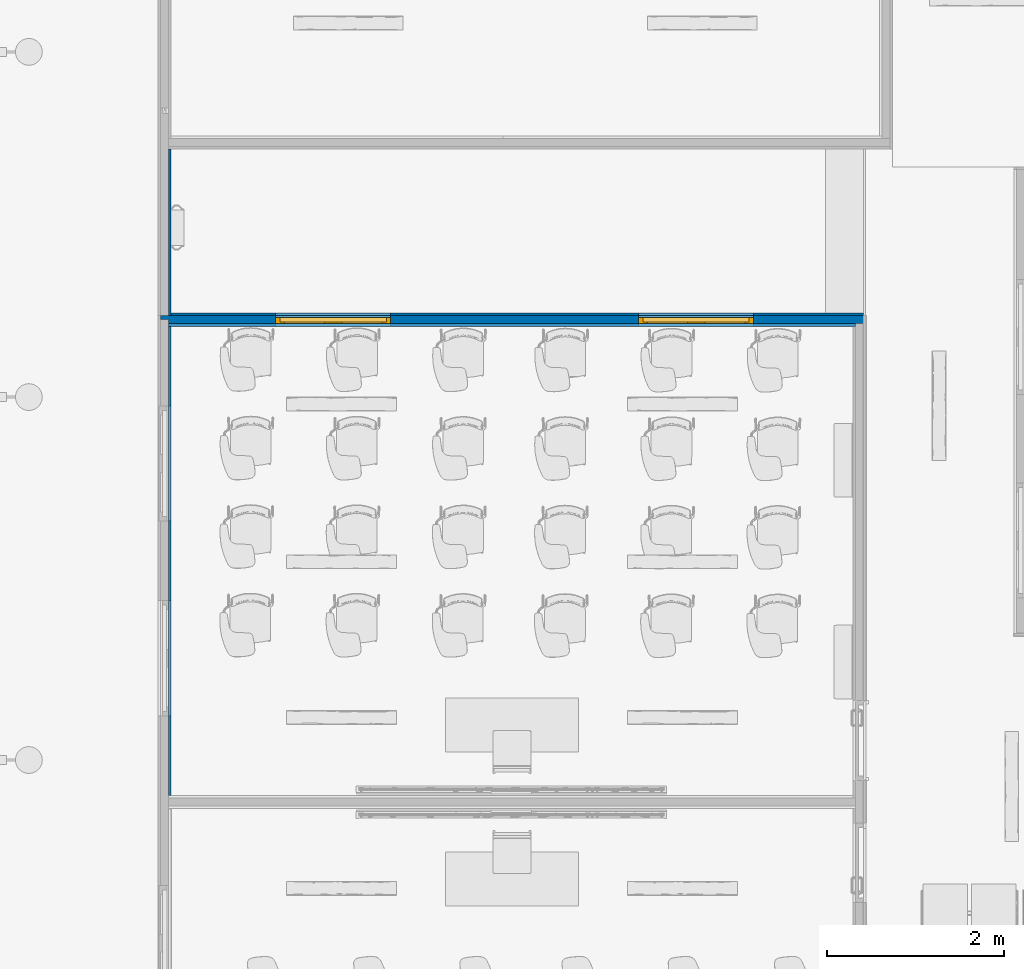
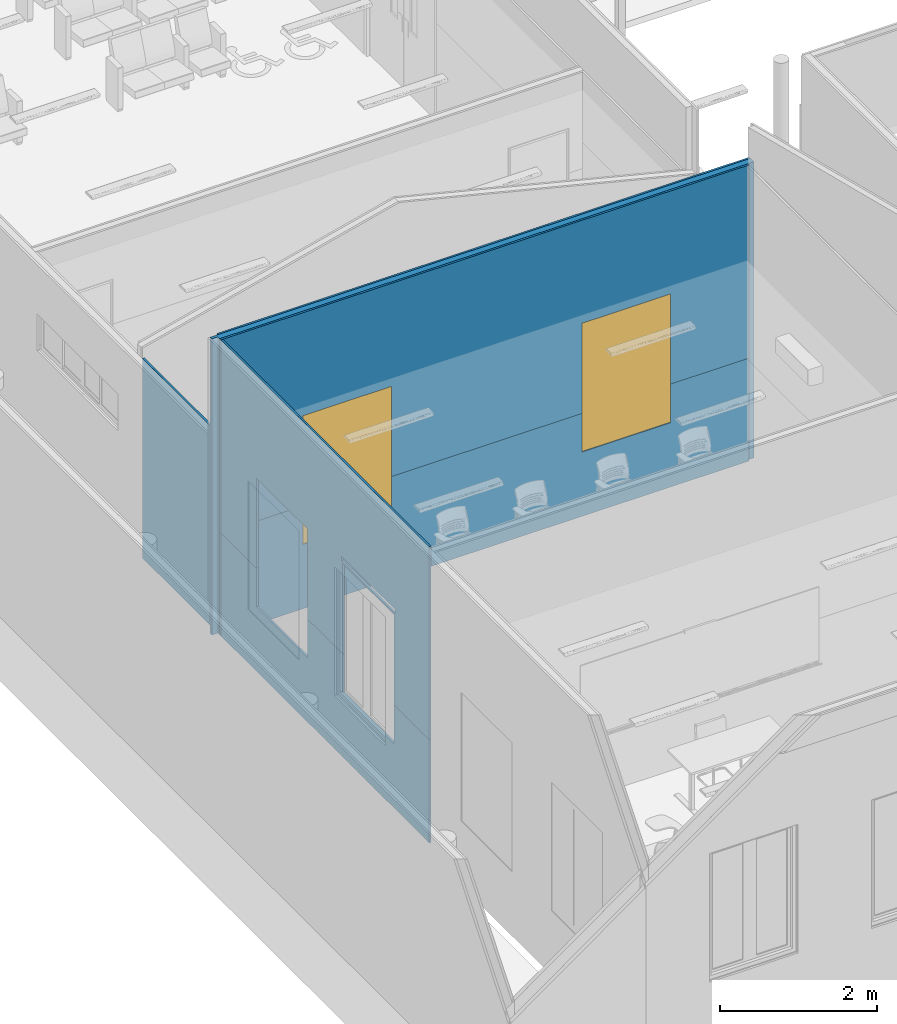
# One storey, part 13 of 155: 7 walls, 2 windows, 32 openings.
"""IFC2X3 building model written with IfcOpenShell, lengths in metres."""

import ifcopenshell
import ifcopenshell.guid

model = None  # the IFC model being written
_history = None  # IfcOwnerHistory: only IFC2X3 demands one
_inside = {}  # id of a spatial element -> (the spatial element, [elements in it])
_under = {}  # id of a project, library or spatial element -> (it, [spatial elements below it])
_declared = {}  # id of a project -> (the project, [libraries it declares])
_typed = {}  # id of a type object -> (the type object, [elements of that type])
_made_of = {}  # id of a material, layer set ... -> (it, [elements and type objects made of it])


def new_model(schema):
    """Start an empty IFC model of exactly this schema.

    Asked for "IFC4X3", IfcOpenShell would pick the latest addendum, in which some entities
    have other attributes; the version numbers below select the first issue.
    IFC2X3 requires an IfcOwnerHistory on every rooted entity: one is made here for all.
    """
    global model, _history
    if schema == "IFC4X3":
        model = ifcopenshell.file(schema_version=(4, 3, 0, 0))
    else:
        model = ifcopenshell.file(schema=schema)
    _inside.clear()
    _under.clear()
    _declared.clear()
    _typed.clear()
    _made_of.clear()
    _history = None
    if model.schema == "IFC2X3":
        org = make("IfcOrganization", Name="unknown")
        user = make(
            "IfcPersonAndOrganization",
            ThePerson=make("IfcPerson", FamilyName="unknown"),
            TheOrganization=org,
        )
        app = make(
            "IfcApplication",
            ApplicationDeveloper=org,
            Version="unknown",
            ApplicationFullName="unknown",
            ApplicationIdentifier="unknown",
        )
        _history = make(
            "IfcOwnerHistory",
            OwningUser=user,
            OwningApplication=app,
            ChangeAction="ADDED",
            CreationDate=0,
        )
    return model


def make(cls, **values):
    """One entity of the class cls with the attributes given. An attribute that is None is left unset."""
    return model.create_entity(
        cls, **{name: value for name, value in values.items() if value is not None}
    )


def entity(cls, *values):
    """Any entity or typed value of the class cls, its attributes in the order of the schema. None: left unset."""
    e = model.create_entity(cls)
    for i, value in enumerate(values):
        if value is not None:
            e[i] = value
    return e


def rooted(cls, **values):
    """An entity with a GlobalId (a new one), such as an element, a storey or a relation."""
    return make(cls, GlobalId=ifcopenshell.guid.new(), OwnerHistory=_history, **values)


def si_unit(unit_type, name, prefix=None):
    """IfcSIUnit, for example si_unit("LENGTHUNIT", "METRE", prefix="MILLI")."""
    return make("IfcSIUnit", UnitType=unit_type, Prefix=prefix, Name=name)


def converted_unit(unit_type, name, factor, base, dimensions=None, offset=None):
    """IfcConversionBasedUnit, such as the inch: factor (a typed value) times the base unit."""
    return make(
        "IfcConversionBasedUnit"
        if offset is None
        else "IfcConversionBasedUnitWithOffset",
        ConversionOffset=offset,
        Dimensions=None
        if dimensions is None
        else entity("IfcDimensionalExponents", *dimensions),
        UnitType=unit_type,
        Name=name,
        ConversionFactor=make(
            "IfcMeasureWithUnit", ValueComponent=factor, UnitComponent=base
        ),
    )


def derived_unit(unit_type, elements):
    """IfcDerivedUnit: a product of units, each with its exponent."""
    return make(
        "IfcDerivedUnit",
        Elements=[
            make("IfcDerivedUnitElement", Unit=unit, Exponent=power)
            for unit, power in elements
        ],
        UnitType=unit_type,
    )


def assignment(units):
    """IfcUnitAssignment: the units of a project."""
    return None if units is None else make("IfcUnitAssignment", Units=units)


def point(xyz):
    """IfcCartesianPoint."""
    return None if xyz is None else make("IfcCartesianPoint", Coordinates=xyz)


def direction(xyz):
    """IfcDirection."""
    return None if xyz is None else make("IfcDirection", DirectionRatios=xyz)


def frame(location, z_axis=None, x_axis=None):
    """IfcAxis2Placement3D, a coordinate frame: its origin and axes. An axis left out is left unset."""
    return make(
        "IfcAxis2Placement3D",
        Location=point(location),
        Axis=direction(z_axis),
        RefDirection=direction(x_axis),
    )


def frame_2d(location, x_axis=None):
    """IfcAxis2Placement2D, a coordinate frame in the plane: its origin and x axis."""
    return make(
        "IfcAxis2Placement2D", Location=point(location), RefDirection=direction(x_axis)
    )


def origin():
    """The frame at (0, 0, 0) with its axes left unset."""
    return frame((0.0, 0.0, 0.0))


def origin_2d_with_axis():
    """The frame at (0, 0) in the plane with the x axis (1, 0) written out."""
    return frame_2d((0.0, 0.0), x_axis=(1.0, 0.0))


def place(relative_to, where):
    """IfcLocalPlacement: puts the frame where relative to a parent placement (None: the world)."""
    return make(
        "IfcLocalPlacement", PlacementRelTo=relative_to, RelativePlacement=where
    )


def context(
    kind, dimensions, precision=None, world=None, true_north=None, identifier=None
):
    """IfcGeometricRepresentationContext, for example the 3D "Model" context."""
    return make(
        "IfcGeometricRepresentationContext",
        ContextIdentifier=identifier,
        ContextType=kind,
        CoordinateSpaceDimension=dimensions,
        Precision=precision,
        WorldCoordinateSystem=world,
        TrueNorth=true_north,
    )


def subcontext(parent, identifier, kind, view, scale=None):
    """IfcGeometricRepresentationSubContext, for example "Body" below "Model"."""
    return make(
        "IfcGeometricRepresentationSubContext",
        ContextIdentifier=identifier,
        ContextType=kind,
        ParentContext=parent,
        TargetScale=scale,
        TargetView=view,
    )


def project(units=None, contexts=None):
    """IfcProject with its units and contexts."""
    return rooted(
        "IfcProject",
        Name="project",
        RepresentationContexts=contexts,
        UnitsInContext=assignment(units),
    )


def spatial(cls, under=None, at=None, **own):
    """A site, building, storey or space (cls), placed at a placement, below another one or the project."""
    s = rooted(cls, ObjectPlacement=at, **own)
    if under is not None:
        _under.setdefault(under.id(), (under, []))[1].append(s)
    return s


def polyline(points):
    """IfcPolyline through the points."""
    return make("IfcPolyline", Points=[point(p) for p in points])


def profile(cls, at=None, kind="AREA", **sizes):
    """A parametric profile (cls). Its sizes go by their IFC names, for example OverallWidth=200.0."""
    return make(cls, ProfileType=kind, Position=at, **sizes)


def rectangle(**sizes):
    """IfcRectangleProfileDef."""
    return profile("IfcRectangleProfileDef", **sizes)


def outline(outer, holes=None, kind="AREA"):
    """IfcArbitraryClosedProfileDef: a profile drawn as a closed curve; with holes, ...WithVoids."""
    if holes is None:
        return make("IfcArbitraryClosedProfileDef", ProfileType=kind, OuterCurve=outer)
    return make(
        "IfcArbitraryProfileDefWithVoids",
        ProfileType=kind,
        OuterCurve=outer,
        InnerCurves=holes,
    )


def extrude(swept, where, along, depth):
    """IfcExtrudedAreaSolid: the profile swept, set in the frame where, extruded along a direction by depth."""
    return make(
        "IfcExtrudedAreaSolid",
        SweptArea=swept,
        Position=where,
        ExtrudedDirection=direction(along),
        Depth=depth,
    )


def shape(context_of_items, identifier, shape_type, items):
    """IfcShapeRepresentation: the items that make up one representation, for example the "Body"."""
    return make(
        "IfcShapeRepresentation",
        ContextOfItems=context_of_items,
        RepresentationIdentifier=identifier,
        RepresentationType=shape_type,
        Items=items,
    )


def source(mapping_origin, context_of_items, identifier, shape_type, items):
    """IfcRepresentationMap: a shape defined once, which mapped items show again and again."""
    return make(
        "IfcRepresentationMap",
        MappingOrigin=mapping_origin,
        MappedRepresentation=shape(context_of_items, identifier, shape_type, items),
    )


def transform(
    local_origin,
    x_axis=None,
    y_axis=None,
    z_axis=None,
    scale=None,
    scale2=None,
    scale3=None,
    uniform=True,
):
    """IfcCartesianTransformationOperator3D, or its non-uniform kind. x_axis, y_axis, z_axis: its Axis1, 2, 3."""
    if uniform:
        return make(
            "IfcCartesianTransformationOperator3D",
            Axis1=direction(x_axis),
            Axis2=direction(y_axis),
            LocalOrigin=point(local_origin),
            Scale=scale,
            Axis3=direction(z_axis),
        )
    return make(
        "IfcCartesianTransformationOperator3DnonUniform",
        Axis1=direction(x_axis),
        Axis2=direction(y_axis),
        LocalOrigin=point(local_origin),
        Scale=scale,
        Axis3=direction(z_axis),
        Scale2=scale2,
        Scale3=scale3,
    )


def mapped(mapping_source, mapping_target):
    """IfcMappedItem: shows the shape of a source again, moved by a transform."""
    return make(
        "IfcMappedItem", MappingSource=mapping_source, MappingTarget=mapping_target
    )


def material(Name=None, Category=None):
    """IfcMaterial."""
    return make("IfcMaterial", Name=Name, Category=Category)


def layer(
    of_material, thickness, ventilated=None, Name=None, Category=None, Priority=None
):
    """IfcMaterialLayer: one layer of a wall or slab, of a material (None: an air gap)."""
    return make(
        "IfcMaterialLayer",
        Material=of_material,
        LayerThickness=thickness,
        IsVentilated=ventilated,
        Name=Name,
        Category=Category,
        Priority=Priority,
    )


def layer_set(layers, Name=None):
    """IfcMaterialLayerSet."""
    return make("IfcMaterialLayerSet", MaterialLayers=layers, LayerSetName=Name)


def layer_usage(for_layer_set, set_direction, sense, offset, extent=None):
    """IfcMaterialLayerSetUsage: how a layer set lies in its element."""
    return make(
        "IfcMaterialLayerSetUsage",
        ForLayerSet=for_layer_set,
        LayerSetDirection=set_direction,
        DirectionSense=sense,
        OffsetFromReferenceLine=offset,
        ReferenceExtent=extent,
    )


def made_of(thing, what):
    """Note that an element or type object is made of a material, layer set ...; save() writes the relation."""
    if what is not None:
        _made_of.setdefault(what.id(), (what, []))[1].append(thing)
    return thing


def type_object(cls, material=None, **own):
    """A type object (cls), such as IfcWallType, which elements share."""
    return made_of(rooted(cls, **own), material)


def type_shapes(of_type, sources):
    """Give a type object the sources (RepresentationMaps) that its elements show as mapped items."""
    of_type.RepresentationMaps = sources


def element(
    cls,
    number,
    at=None,
    inside=None,
    cuts=None,
    type_object=None,
    material=None,
    context=None,
    identifier="Body",
    shape_type=None,
    held_by="IfcProductDefinitionShape",
    body=None,
    shapes=None,
    **own,
):
    """One element of the class cls, such as IfcWall. Its Tag is "e" and its number.

    at: its placement. inside: the storey or other place that contains it. cuts: it is an
    opening in that element (IfcRelVoidsElement). A single representation is given by context,
    identifier, shape_type and body (its items); several are given by shapes. held_by: the class
    of the entity that holds the representations. save() writes the other relations.
    """
    e = rooted(cls, Tag="e%d" % number, ObjectPlacement=at, **own)
    if body is not None:
        shapes = [shape(context, identifier, shape_type, body)]
    if shapes is not None:
        e.Representation = make(held_by, Representations=shapes)
    if inside is not None:
        _inside.setdefault(inside.id(), (inside, []))[1].append(e)
    if cuts is not None:
        rooted(
            "IfcRelVoidsElement", RelatingBuildingElement=cuts, RelatedOpeningElement=e
        )
    if type_object is not None:
        _typed.setdefault(type_object.id(), (type_object, []))[1].append(e)
    return made_of(e, material)


def fill(opening, filler):
    """IfcRelFillsElement: the door or window that sits in an opening."""
    return rooted(
        "IfcRelFillsElement",
        RelatingOpeningElement=opening,
        RelatedBuildingElement=filler,
    )


def aggregate(whole, parts):
    """IfcRelAggregates: a whole, such as a stair, and the parts it consists of."""
    return rooted("IfcRelAggregates", RelatingObject=whole, RelatedObjects=parts)


def save(model, path):
    """Write the relations noted so far, then the file.

    IfcRelAggregates (storeys below a building ...), IfcRelContainedInSpatialStructure (elements
    in a storey), IfcRelDefinesByType, IfcRelAssociatesMaterial and IfcRelDeclares: one each for
    every whole, place, type object, material and project.
    """
    for whole, parts in _under.values():
        aggregate(whole, parts)
    for where, things in _inside.values():
        rooted(
            "IfcRelContainedInSpatialStructure",
            RelatedElements=things,
            RelatingStructure=where,
        )
    for kind, things in _typed.values():
        rooted("IfcRelDefinesByType", RelatedObjects=things, RelatingType=kind)
    for what, things in _made_of.values():
        rooted("IfcRelAssociatesMaterial", RelatedObjects=things, RelatingMaterial=what)
    for by, libraries in _declared.values():
        rooted("IfcRelDeclares", RelatingContext=by, RelatedDefinitions=libraries)
    model.write(path)


model = new_model("IFC2X3")

# Units and contexts
model_context = context("Model", 3, precision=1e-05, world=origin(), true_north=direction((6.12303176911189e-17, 1.0)))
body_context = subcontext(model_context, "Body", "Model", "MODEL_VIEW")
ifc_project = project(units=[si_unit("LENGTHUNIT", "METRE"), si_unit("AREAUNIT", "SQUARE_METRE"), si_unit("VOLUMEUNIT", "CUBIC_METRE"), converted_unit("PLANEANGLEUNIT", "DEGREE", entity("IfcRatioMeasure", 0.0174532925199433), si_unit("PLANEANGLEUNIT", "RADIAN"), dimensions=[0, 0, 0, 0, 0, 0, 0]), si_unit("MASSUNIT", "GRAM", prefix="KILO"), derived_unit("MASSDENSITYUNIT", [(si_unit("MASSUNIT", "GRAM", prefix="KILO"), 1), (si_unit("LENGTHUNIT", "METRE"), -3)]), si_unit("TIMEUNIT", "SECOND"), si_unit("FREQUENCYUNIT", "HERTZ"), si_unit("THERMODYNAMICTEMPERATUREUNIT", "DEGREE_CELSIUS"), derived_unit("THERMALTRANSMITTANCEUNIT", [(si_unit("MASSUNIT", "GRAM", prefix="KILO"), 1), (si_unit("THERMODYNAMICTEMPERATUREUNIT", "KELVIN"), -1), (si_unit("TIMEUNIT", "SECOND"), -3)]), derived_unit("VOLUMETRICFLOWRATEUNIT", [(si_unit("LENGTHUNIT", "METRE"), 3), (si_unit("TIMEUNIT", "SECOND"), -1)]), si_unit("ELECTRICCURRENTUNIT", "AMPERE"), si_unit("ELECTRICVOLTAGEUNIT", "VOLT"), si_unit("POWERUNIT", "WATT"), si_unit("FORCEUNIT", "NEWTON", prefix="KILO"), si_unit("ILLUMINANCEUNIT", "LUX"), si_unit("LUMINOUSFLUXUNIT", "LUMEN"), si_unit("LUMINOUSINTENSITYUNIT", "CANDELA"), derived_unit("USERDEFINED", [(si_unit("MASSUNIT", "GRAM", prefix="KILO"), -1), (si_unit("LENGTHUNIT", "METRE"), -2), (si_unit("TIMEUNIT", "SECOND"), 3), (si_unit("LUMINOUSFLUXUNIT", "LUMEN"), 1)]), derived_unit("LINEARVELOCITYUNIT", [(si_unit("LENGTHUNIT", "METRE"), 1), (si_unit("TIMEUNIT", "SECOND"), -1)]), si_unit("PRESSUREUNIT", "PASCAL"), derived_unit("USERDEFINED", [(si_unit("LENGTHUNIT", "METRE"), -2), (si_unit("MASSUNIT", "GRAM", prefix="KILO"), 1), (si_unit("TIMEUNIT", "SECOND"), -2)])], contexts=[model_context])

# Site, building, storey
site_placement = place(None, frame((26.9889013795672, -17.5624287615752, 0.0)))
site = spatial("IfcSite", under=ifc_project, at=site_placement, Name="Default", CompositionType="ELEMENT")
building_placement = place(site_placement, origin())
building = spatial("IfcBuilding", under=site, at=building_placement, Name="C. C. L. Monsenhor Antônio Sampaio", CompositionType="ELEMENT")
storey_placement = place(building_placement, frame((0.0, 0.0, 1.19999999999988)))
storey = spatial("IfcBuildingStorey", under=building, at=storey_placement, Name="Nível 1.2", CompositionType="ELEMENT", Elevation=1.19999999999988)

# Wall, openings, windows
ifc_material_1 = material(Name="ALVENARIA")
ifc_layer_1 = layer(ifc_material_1, 0.09)
ifc_layer_set_1 = layer_set([ifc_layer_1], Name="Parede básica:ENucleo parede 15cm")
ifc_layer_usage_1 = layer_usage(ifc_layer_set_1, "AXIS2", "POSITIVE", -0.045)
wall_type_1 = type_object("IfcWallType", Name="Parede básica:ENucleo parede 15cm", PredefinedType="STANDARD", material=ifc_layer_set_1)
wall_1_placement = place(storey_placement, frame((-14.110552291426, -28.378066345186, 0.0)))
wall_1 = element("IfcWallStandardCase", 1, at=wall_1_placement, inside=storey, type_object=wall_type_1, material=ifc_layer_usage_1, Name="Parede básica:ENucleo parede 15cm", ObjectType="Parede básica:ENucleo parede 15cm", context=body_context, shape_type="SweptSolid", body=[
    extrude(outline(polyline([(7.93999999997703, -0.0450000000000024), (7.93999999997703, 0.0449999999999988), (0.119999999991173, 0.0449999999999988), (0.0899999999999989, 0.0449999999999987), (0.0, 0.0449999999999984), (0.0, 0.0), (0.0900000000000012, 0.0), (0.0900000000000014, -0.0450000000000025), (0.119999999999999, -0.0450000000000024), (7.84999999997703, -0.0450000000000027), (7.93999999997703, -0.0450000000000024)])), origin(), (0.0, 0.0, 1.0), 4.60000000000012),
])
opening_1_placement = place(wall_1_placement, frame((2.59999999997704, 0.0449999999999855, 1.0)))
opening_1 = element("IfcOpeningElement", 2, at=opening_1_placement, cuts=wall_1, Name="Janela levantamento:130 x 200cm 2:1", ObjectType="Opening", context=body_context, shape_type="SweptSolid", body=[
    extrude(rectangle(XDim=2.0, YDim=1.30000000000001, at=frame_2d((0.999999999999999, 0.650000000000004), x_axis=(1.0, 0.0))), frame((0.0, 0.0, 0.0), z_axis=(0.0, -1.0, 0.0), x_axis=(0.0, 0.0, 1.0)), (0.0, 0.0, 1.0), 0.09),
])
opening_2_placement = place(wall_1_placement, frame((6.69999999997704, 0.0449999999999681, 1.0)))
opening_2 = element("IfcOpeningElement", 3, at=opening_2_placement, cuts=wall_1, Name="Janela levantamento:130 x 200cm 2:1", ObjectType="Opening", context=body_context, shape_type="SweptSolid", body=[
    extrude(rectangle(XDim=2.0, YDim=1.30000000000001, at=frame_2d((0.999999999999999, 0.650000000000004), x_axis=(1.0, 0.0))), frame((0.0, 0.0, 0.0), z_axis=(0.0, -1.0, 0.0), x_axis=(0.0, 0.0, 1.0)), (0.0, 0.0, 1.0), 0.09),
])
ifc_material_2 = material(Name="Pintura Azul")
window_style = type_object("IfcWindowStyle", Name="130 x 200cm 2", ConstructionType="NOTDEFINED", OperationType="NOTDEFINED", ParameterTakesPrecedence=False, Sizeable=False, material=ifc_material_2)
shared_shape = source(origin(), body_context, "Body", "SweptSolid", [
    extrude(rectangle(XDim=1.3, YDim=0.0209999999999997, at=frame_2d((0.0, 4.33680868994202e-18), x_axis=(1.0, 0.0))), frame((0.650000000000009, 0.0795000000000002, 0.0)), (0.0, 0.0, 1.0), 0.0299999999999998),
    extrude(outline(polyline([(-0.325000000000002, -1.0), (0.325000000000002, -1.0), (0.325000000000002, 1.0), (-0.325000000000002, 1.0), (-0.325000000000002, -1.0)]), holes=[polyline([(0.225000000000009, -0.899999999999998), (-0.225000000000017, -0.899999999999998), (-0.225000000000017, 0.900000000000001), (0.225000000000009, 0.900000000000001), (0.225000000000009, -0.899999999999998)])]), frame((0.325000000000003, 0.0690000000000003, 1.0), z_axis=(0.0, 1.0, 0.0), x_axis=(1.0, 0.0, 0.0)), (0.0, 0.0, 1.0), 0.04),
    extrude(outline(polyline([(-0.650000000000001, -1.0), (0.650000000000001, -1.0), (0.650000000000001, 1.0), (-0.650000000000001, 1.0), (-0.650000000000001, -1.0)]), holes=[polyline([(-0.599999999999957, -0.949999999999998), (-0.599999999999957, 0.94), (0.600000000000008, 0.94), (0.600000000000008, -0.949999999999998), (-0.599999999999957, -0.949999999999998)])]), frame((0.650000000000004, 0.019, 1.0), z_axis=(0.0, 1.0, 0.0), x_axis=(1.0, 0.0, 0.0)), (0.0, 0.0, 1.0), 0.05),
    extrude(rectangle(XDim=0.0205880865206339, YDim=0.450000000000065, at=origin_2d_with_axis()), frame((0.324999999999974, 0.0987059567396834, 0.0999999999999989), z_axis=(0.0, 0.0, 1.0), x_axis=(0.0, 1.0, 0.0)), (0.0, 0.0, 1.0), 1.8),
    extrude(rectangle(XDim=0.0205880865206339, YDim=0.449999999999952, at=frame_2d((0.0, 4.16333634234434e-17), x_axis=(1.0, 0.0))), frame((0.977826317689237, 0.0987059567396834, 0.100000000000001), z_axis=(0.0, 0.0, 1.0), x_axis=(0.0, 1.0, 0.0)), (0.0, 0.0, 1.0), 1.8),
    extrude(outline(polyline([(-1.0, -0.325000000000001), (1.0, -0.325000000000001), (1.0, 0.325000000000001), (-1.0, 0.325000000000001), (-1.0, -0.325000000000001)]), holes=[polyline([(-0.899999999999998, 0.224999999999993), (0.900000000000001, 0.224999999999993), (0.900000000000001, -0.225000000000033), (-0.899999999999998, -0.225000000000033), (-0.899999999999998, 0.224999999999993)])]), frame((0.975000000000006, 0.0690000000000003, 1.0), z_axis=(0.0, 1.0, 0.0), x_axis=(0.0, 0.0, -1.0)), (0.0, 0.0, 1.0), 0.04),
])
type_shapes(window_style, [shared_shape])
window_1_placement = place(opening_2_placement, frame((0.0, 0.0, 0.0), z_axis=(0.0, 0.0, 1.0), x_axis=(-1.0, 0.0, 0.0)))
window_1 = element("IfcWindow", 4, at=window_1_placement, inside=storey, type_object=window_style, material=ifc_material_2, Name="Janela levantamento:130 x 200cm 2", ObjectType="130 x 200cm 2", OverallHeight=2.0, OverallWidth=1.30000000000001, context=body_context, shape_type="MappedRepresentation", body=[
    mapped(shared_shape, transform((0.0, 0.0, 0.0), scale=1.0)),
])
fill(opening_2, window_1)
window_2_placement = place(opening_1_placement, frame((0.0, 0.0, 0.0), z_axis=(0.0, 0.0, 1.0), x_axis=(-1.0, 0.0, 0.0)))
window_2 = element("IfcWindow", 5, at=window_2_placement, inside=storey, type_object=window_style, material=ifc_material_2, Name="Janela levantamento:130 x 200cm 2", ObjectType="130 x 200cm 2", OverallHeight=2.0, OverallWidth=1.30000000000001, context=body_context, shape_type="MappedRepresentation", body=[
    mapped(shared_shape, transform((0.0, 0.0, 0.0), scale=1.0)),
])
fill(opening_1, window_2)

# Wall, openings
ifc_material_3 = material(Name=".CERÂMICA 10x10 BRANCA")
ifc_layer_2 = layer(ifc_material_3, 0.0035)
ifc_material_4 = material(Name="Argamassa Colante")
ifc_layer_3 = layer(ifc_material_4, 0.02)
ifc_material_5 = material(Name="4")
ifc_layer_4 = layer(ifc_material_5, 0.0015)
ifc_material_6 = material(Name="3")
ifc_layer_5 = layer(ifc_material_6, 0.005)
ifc_layer_set_2 = layer_set([ifc_layer_2, ifc_layer_3, ifc_layer_4, ifc_layer_5], Name="Parede básica:ECeramica branca 10x10cm")
ifc_layer_usage_2 = layer_usage(ifc_layer_set_2, "AXIS2", "POSITIVE", -0.015)
wall_type_2 = type_object("IfcWallType", Name="Parede básica:ECeramica branca 10x10cm", PredefinedType="STANDARD", material=ifc_layer_set_2)
wall_2_placement = place(storey_placement, frame((-14.020552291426, -28.438066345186, 0.0)))
wall_2 = element("IfcWallStandardCase", 6, at=wall_2_placement, inside=storey, type_object=wall_type_2, material=ifc_layer_usage_2, Name="Parede básica:ECeramica branca 10x10cm", ObjectType="Parede básica:ECeramica branca 10x10cm", context=body_context, shape_type="SweptSolid", body=[
    extrude(rectangle(XDim=7.75999999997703, YDim=0.0300000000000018, at=frame_2d((3.87999999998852, 0.0), x_axis=(-1.0, 0.0))), origin(), (0.0, 0.0, 1.0), 1.6),
])
opening_3_placement = place(wall_2_placement, origin())
element("IfcOpeningElement", 7, at=opening_3_placement, cuts=wall_2, Name="Parede básica:ECeramica branca 10x10cm", ObjectType="Opening", context=body_context, shape_type="SweptSolid", body=[
    extrude(rectangle(XDim=2.0, YDim=1.30000000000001, at=frame_2d((0.0, -3.88578058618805e-16), x_axis=(0.0, 1.0))), frame((5.95999999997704, -1.419, 2.0), z_axis=(0.0, 1.0, 0.0), x_axis=(-1.0, 0.0, 0.0)), (0.0, 0.0, 1.0), 3.048),
])
opening_4_placement = place(wall_2_placement, origin())
element("IfcOpeningElement", 8, at=opening_4_placement, cuts=wall_2, Name="Parede básica:ECeramica branca 10x10cm", ObjectType="Opening", context=body_context, shape_type="SweptSolid", body=[
    extrude(rectangle(XDim=2.0, YDim=1.30000000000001, at=frame_2d((0.0, -3.88578058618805e-16), x_axis=(0.0, 1.0))), frame((1.85999999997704, -1.419, 2.0), z_axis=(0.0, 1.0, 0.0), x_axis=(-1.0, 0.0, 0.0)), (0.0, 0.0, 1.0), 3.048),
])

ifc_layer_usage_3 = layer_usage(ifc_layer_set_2, "AXIS2", "POSITIVE", -0.015)
wall_3_placement = place(storey_placement, frame((-14.0055522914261, -33.7530663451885, 0.0), z_axis=(0.0, 0.0, 1.0), x_axis=(0.0, 1.0, 0.0)))
wall_3 = element("IfcWallStandardCase", 9, at=wall_3_placement, inside=storey, type_object=wall_type_2, material=ifc_layer_usage_3, Name="Parede básica:ECeramica branca 10x10cm", ObjectType="Parede básica:ECeramica branca 10x10cm", context=body_context, shape_type="SweptSolid", body=[
    extrude(rectangle(XDim=5.30000000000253, YDim=0.0300000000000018, at=frame_2d((2.65000000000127, 0.0), x_axis=(-1.0, 0.0))), origin(), (0.0, 0.0, 1.0), 1.6),
])
opening_5_placement = place(wall_3_placement, origin())
element("IfcOpeningElement", 10, at=opening_5_placement, cuts=wall_3, Name="Parede básica:ECeramica branca 10x10cm", ObjectType="Opening", context=body_context, shape_type="SweptSolid", body=[
    extrude(rectangle(XDim=2.0, YDim=1.30000000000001, at=frame_2d((1.66533453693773e-16, -4.32986979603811e-15), x_axis=(1.0, 0.0))), frame((3.75000000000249, -1.509, 2.0), z_axis=(0.0, 1.0, 0.0), x_axis=(0.0, 0.0, 1.0)), (0.0, 0.0, 1.0), 3.048),
])
opening_6_placement = place(wall_3_placement, origin())
element("IfcOpeningElement", 11, at=opening_6_placement, cuts=wall_3, Name="Parede básica:ECeramica branca 10x10cm", ObjectType="Opening", context=body_context, shape_type="SweptSolid", body=[
    extrude(rectangle(XDim=2.0, YDim=1.30000000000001, at=frame_2d((4.32986979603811e-15, -3.88578058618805e-16), x_axis=(0.0, 1.0))), frame((1.55000000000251, -1.419, 2.0), z_axis=(0.0, 1.0, 0.0), x_axis=(-1.0, 0.0, 0.0)), (0.0, 0.0, 1.0), 3.048),
])
opening_7_placement = place(wall_3_placement, origin())
element("IfcOpeningElement", 12, at=opening_7_placement, cuts=wall_3, Name="Parede básica:ECeramica branca 10x10cm", ObjectType="Opening", context=body_context, shape_type="SweptSolid", body=[
    extrude(rectangle(XDim=2.0, YDim=1.30000000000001, at=frame_2d((1.66533453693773e-16, 0.0), x_axis=(1.0, 0.0))), frame((-1.67000000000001, -1.509, 2.0), z_axis=(0.0, 1.0, 0.0), x_axis=(0.0, 0.0, 1.0)), (0.0, 0.0, 1.0), 3.048),
])
opening_8_placement = place(wall_3_placement, origin())
element("IfcOpeningElement", 13, at=opening_8_placement, cuts=wall_3, Name="Parede básica:ECeramica branca 10x10cm", ObjectType="Opening", context=body_context, shape_type="SweptSolid", body=[
    extrude(rectangle(XDim=2.0, YDim=1.30000000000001, at=frame_2d((1.66533453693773e-16, 0.0), x_axis=(1.0, 0.0))), frame((-3.97000000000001, -1.509, 2.0), z_axis=(0.0, 1.0, 0.0), x_axis=(0.0, 0.0, 1.0)), (0.0, 0.0, 1.0), 3.048),
])
opening_9_placement = place(wall_3_placement, origin())
element("IfcOpeningElement", 14, at=opening_9_placement, cuts=wall_3, Name="Parede básica:ECeramica branca 10x10cm", ObjectType="Opening", context=body_context, shape_type="SweptSolid", body=[
    extrude(rectangle(XDim=0.569999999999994, YDim=3.06999999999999, at=frame_2d((0.0, -9.99200722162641e-16), x_axis=(1.0, 0.0))), frame((21.9800000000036, -1.509, 2.05000000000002), z_axis=(0.0, 1.0, 0.0), x_axis=(0.0, 0.0, 1.0)), (0.0, 0.0, 1.0), 3.048),
])
opening_10_placement = place(wall_3_placement, origin())
element("IfcOpeningElement", 15, at=opening_10_placement, cuts=wall_3, Name="Parede básica:ECeramica branca 10x10cm", ObjectType="Opening", context=body_context, shape_type="SweptSolid", body=[
    extrude(rectangle(XDim=0.569999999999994, YDim=3.06999999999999, at=frame_2d((0.0, -9.99200722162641e-16), x_axis=(1.0, 0.0))), frame((18.2800000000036, -1.509, 2.05000000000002), z_axis=(0.0, 1.0, 0.0), x_axis=(0.0, 0.0, 1.0)), (0.0, 0.0, 1.0), 3.048),
])
opening_11_placement = place(wall_3_placement, origin())
element("IfcOpeningElement", 16, at=opening_11_placement, cuts=wall_3, Name="Parede básica:ECeramica branca 10x10cm", ObjectType="Opening", context=body_context, shape_type="SweptSolid", body=[
    extrude(rectangle(XDim=0.569999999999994, YDim=3.06999999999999, at=frame_2d((0.0, -9.99200722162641e-16), x_axis=(1.0, 0.0))), frame((14.5800000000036, -1.509, 2.05000000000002), z_axis=(0.0, 1.0, 0.0), x_axis=(0.0, 0.0, 1.0)), (0.0, 0.0, 1.0), 3.048),
])
opening_12_placement = place(wall_3_placement, origin())
element("IfcOpeningElement", 17, at=opening_12_placement, cuts=wall_3, Name="Parede básica:ECeramica branca 10x10cm", ObjectType="Opening", context=body_context, shape_type="SweptSolid", body=[
    extrude(rectangle(XDim=0.570000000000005, YDim=2.07, at=frame_2d((5.27355936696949e-16, 0.0), x_axis=(1.0, 0.0))), frame((8.74000000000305, -1.509, 2.05000000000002), z_axis=(0.0, 1.0, 0.0), x_axis=(0.0, 0.0, 1.0)), (0.0, 0.0, 1.0), 3.048),
])
opening_13_placement = place(wall_3_placement, origin())
element("IfcOpeningElement", 18, at=opening_13_placement, cuts=wall_3, Name="Parede básica:ECeramica branca 10x10cm", ObjectType="Opening", context=body_context, shape_type="SweptSolid", body=[
    extrude(rectangle(XDim=2.15999999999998, YDim=0.879999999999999, at=origin_2d_with_axis()), frame((25.7399999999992, -1.419, 1.07999999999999), z_axis=(0.0, 1.0, 0.0), x_axis=(0.0, 0.0, 1.0)), (0.0, 0.0, 1.0), 3.048),
])

ifc_layer_usage_4 = layer_usage(ifc_layer_set_2, "AXIS2", "NEGATIVE", 0.015)
wall_4_placement = place(storey_placement, frame((-14.005552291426, -26.4530663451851, 0.0), z_axis=(0.0, 0.0, 1.0), x_axis=(0.0, -1.0, 0.0)))
wall_4 = element("IfcWallStandardCase", 19, at=wall_4_placement, inside=storey, type_object=wall_type_2, material=ifc_layer_usage_4, Name="Parede básica:ECeramica branca 10x10cm", ObjectType="Parede básica:ECeramica branca 10x10cm", context=body_context, shape_type="SweptSolid", body=[
    extrude(rectangle(XDim=1.88000000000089, YDim=0.0300000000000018, at=frame_2d((0.940000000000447, 0.0), x_axis=(-1.0, 0.0))), origin(), (0.0, 0.0, 1.0), 3.10000000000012),
])
opening_14_placement = place(wall_4_placement, origin())
element("IfcOpeningElement", 20, at=opening_14_placement, cuts=wall_4, Name="Parede básica:ECeramica branca 10x10cm", ObjectType="Opening", context=body_context, shape_type="SweptSolid", body=[
    extrude(rectangle(XDim=0.569999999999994, YDim=3.07, at=frame_2d((0.0, 2.77555756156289e-16), x_axis=(0.0, 1.0))), frame((-14.6800000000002, -1.539, 2.05000000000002), z_axis=(0.0, 1.0, 0.0), x_axis=(-1.0, 0.0, 0.0)), (0.0, 0.0, 1.0), 3.048),
])
opening_15_placement = place(wall_4_placement, origin())
element("IfcOpeningElement", 21, at=opening_15_placement, cuts=wall_4, Name="Parede básica:ECeramica branca 10x10cm", ObjectType="Opening", context=body_context, shape_type="SweptSolid", body=[
    extrude(rectangle(XDim=0.569999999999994, YDim=3.07, at=frame_2d((0.0, 2.77555756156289e-16), x_axis=(0.0, 1.0))), frame((-10.9800000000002, -1.539, 2.05000000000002), z_axis=(0.0, 1.0, 0.0), x_axis=(-1.0, 0.0, 0.0)), (0.0, 0.0, 1.0), 3.048),
])
opening_16_placement = place(wall_4_placement, origin())
element("IfcOpeningElement", 22, at=opening_16_placement, cuts=wall_4, Name="Parede básica:ECeramica branca 10x10cm", ObjectType="Opening", context=body_context, shape_type="SweptSolid", body=[
    extrude(rectangle(XDim=0.569999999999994, YDim=3.07, at=frame_2d((1.11022302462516e-15, 2.77555756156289e-16), x_axis=(0.0, 1.0))), frame((-7.28000000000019, -1.539, 2.05000000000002), z_axis=(0.0, 1.0, 0.0), x_axis=(-1.0, 0.0, 0.0)), (0.0, 0.0, 1.0), 3.048),
])
opening_17_placement = place(wall_4_placement, origin())
element("IfcOpeningElement", 23, at=opening_17_placement, cuts=wall_4, Name="Parede básica:ECeramica branca 10x10cm", ObjectType="Opening", context=body_context, shape_type="SweptSolid", body=[
    extrude(rectangle(XDim=0.570000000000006, YDim=2.07, at=frame_2d((0.0, 2.77555756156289e-16), x_axis=(0.0, 1.0))), frame((-1.43999999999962, -1.539, 2.05000000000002), z_axis=(0.0, 1.0, 0.0), x_axis=(-1.0, 0.0, 0.0)), (0.0, 0.0, 1.0), 3.048),
])
opening_18_placement = place(wall_4_placement, origin())
element("IfcOpeningElement", 24, at=opening_18_placement, cuts=wall_4, Name="Parede básica:ECeramica branca 10x10cm", ObjectType="Opening", context=body_context, shape_type="SweptSolid", body=[
    extrude(rectangle(XDim=2.15999999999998, YDim=0.879999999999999, at=frame_2d((0.0, 0.0), x_axis=(0.0, 1.0))), frame((-18.4399999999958, -1.629, 1.07999999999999), z_axis=(0.0, 1.0, 0.0), x_axis=(-1.0, 0.0, 0.0)), (0.0, 0.0, 1.0), 3.048),
])

ifc_layer_usage_5 = layer_usage(ifc_layer_set_2, "AXIS2", "NEGATIVE", 0.015)
wall_5_placement = place(storey_placement, frame((-13.990552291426, -28.318066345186, 0.0)))
wall_5 = element("IfcWallStandardCase", 25, at=wall_5_placement, inside=storey, type_object=wall_type_2, material=ifc_layer_usage_5, Name="Parede básica:ECeramica branca 10x10cm", ObjectType="Parede básica:ECeramica branca 10x10cm", context=body_context, shape_type="SweptSolid", body=[
    extrude(rectangle(XDim=7.81999999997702, YDim=0.0300000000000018, at=frame_2d((3.90999999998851, 0.0), x_axis=(-1.0, 0.0))), origin(), (0.0, 0.0, 1.0), 4.60000000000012),
])
opening_19_placement = place(wall_5_placement, origin())
element("IfcOpeningElement", 26, at=opening_19_placement, cuts=wall_5, Name="Parede básica:ECeramica branca 10x10cm", ObjectType="Opening", context=body_context, shape_type="SweptSolid", body=[
    extrude(rectangle(XDim=2.0, YDim=1.30000000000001, at=frame_2d((0.0, -3.88578058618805e-16), x_axis=(0.0, 1.0))), frame((5.92999999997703, -1.53899999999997, 2.0), z_axis=(0.0, 1.0, 0.0), x_axis=(-1.0, 0.0, 0.0)), (0.0, 0.0, 1.0), 3.048),
])
opening_20_placement = place(wall_5_placement, origin())
element("IfcOpeningElement", 27, at=opening_20_placement, cuts=wall_5, Name="Parede básica:ECeramica branca 10x10cm", ObjectType="Opening", context=body_context, shape_type="SweptSolid", body=[
    extrude(rectangle(XDim=2.0, YDim=1.30000000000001, at=frame_2d((0.0, -3.88578058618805e-16), x_axis=(0.0, 1.0))), frame((1.82999999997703, -1.53899999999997, 2.0), z_axis=(0.0, 1.0, 0.0), x_axis=(-1.0, 0.0, 0.0)), (0.0, 0.0, 1.0), 3.048),
])

ifc_material_7 = material(Name="Acabamento Branco")
ifc_layer_6 = layer(ifc_material_7, 0.0035)
ifc_material_8 = material(Name="Massa corrida")
ifc_layer_7 = layer(ifc_material_8, 0.02)
ifc_layer_8 = layer(ifc_material_5, 0.0015)
ifc_layer_9 = layer(ifc_material_6, 0.005)
ifc_layer_set_3 = layer_set([ifc_layer_6, ifc_layer_7, ifc_layer_8, ifc_layer_9], Name="Parede básica:EPintura Branca")
ifc_layer_usage_6 = layer_usage(ifc_layer_set_3, "AXIS2", "POSITIVE", -0.015)
wall_type_3 = type_object("IfcWallType", Name="Parede básica:EPintura Branca", PredefinedType="STANDARD", material=ifc_layer_set_3)
wall_6_placement = place(storey_placement, frame((-14.020552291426, -28.438066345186, 1.6)))
wall_6 = element("IfcWallStandardCase", 28, at=wall_6_placement, inside=storey, type_object=wall_type_3, material=ifc_layer_usage_6, Name="Parede básica:EPintura Branca", ObjectType="Parede básica:EPintura Branca", context=body_context, shape_type="SweptSolid", body=[
    extrude(rectangle(XDim=7.75999999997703, YDim=0.0300000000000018, at=frame_2d((3.87999999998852, 0.0), x_axis=(-1.0, 0.0))), origin(), (0.0, 0.0, 1.0), 3.00000000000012),
])
opening_21_placement = place(wall_6_placement, origin())
element("IfcOpeningElement", 29, at=opening_21_placement, cuts=wall_6, Name="Parede básica:EPintura Branca", ObjectType="Opening", context=body_context, shape_type="SweptSolid", body=[
    extrude(rectangle(XDim=2.0, YDim=1.30000000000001, at=frame_2d((0.0, -3.88578058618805e-16), x_axis=(0.0, 1.0))), frame((5.95999999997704, -1.419, 0.400000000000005), z_axis=(0.0, 1.0, 0.0), x_axis=(-1.0, 0.0, 0.0)), (0.0, 0.0, 1.0), 3.048),
])
opening_22_placement = place(wall_6_placement, origin())
element("IfcOpeningElement", 30, at=opening_22_placement, cuts=wall_6, Name="Parede básica:EPintura Branca", ObjectType="Opening", context=body_context, shape_type="SweptSolid", body=[
    extrude(rectangle(XDim=2.0, YDim=1.30000000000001, at=frame_2d((0.0, -3.88578058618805e-16), x_axis=(0.0, 1.0))), frame((1.85999999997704, -1.419, 0.400000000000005), z_axis=(0.0, 1.0, 0.0), x_axis=(-1.0, 0.0, 0.0)), (0.0, 0.0, 1.0), 3.048),
])

ifc_layer_usage_7 = layer_usage(ifc_layer_set_3, "AXIS2", "POSITIVE", -0.015)
wall_7_placement = place(storey_placement, frame((-14.0055522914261, -33.7530663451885, 1.6), z_axis=(0.0, 0.0, 1.0), x_axis=(0.0, 1.0, 0.0)))
wall_7 = element("IfcWallStandardCase", 31, at=wall_7_placement, inside=storey, type_object=wall_type_3, material=ifc_layer_usage_7, Name="Parede básica:EPintura Branca", ObjectType="Parede básica:EPintura Branca", context=body_context, shape_type="SweptSolid", body=[
    extrude(rectangle(XDim=5.30000000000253, YDim=0.0300000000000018, at=frame_2d((2.65000000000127, 0.0), x_axis=(-1.0, 0.0))), origin(), (0.0, 0.0, 1.0), 3.00000000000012),
])
opening_23_placement = place(storey_placement, frame((-14.0055522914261, -33.7530663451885, 1.6), z_axis=(0.0, 0.0, 1.0), x_axis=(0.0, 1.0, 0.0)))
element("IfcOpeningElement", 32, at=opening_23_placement, cuts=wall_7, Name="Parede básica:EPintura Branca:1", ObjectType="Opening", context=body_context, shape_type="SweptSolid", body=[
    extrude(rectangle(XDim=0.0299999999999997, YDim=1.37, at=frame_2d((2.20688311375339e-12, 0.0), x_axis=(1.0, 0.0))), frame((1.55, 0.0, 1.42994433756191), z_axis=(0.0, 0.0, 1.0), x_axis=(0.0, -1.0, 0.0)), (0.0, 0.0, 1.0), 0.0700556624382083),
])
opening_24_placement = place(wall_7_placement, origin())
element("IfcOpeningElement", 33, at=opening_24_placement, cuts=wall_7, Name="Parede básica:EPintura Branca", ObjectType="Opening", context=body_context, shape_type="SweptSolid", body=[
    extrude(rectangle(XDim=2.0, YDim=1.30000000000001, at=frame_2d((1.66533453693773e-16, -4.32986979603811e-15), x_axis=(1.0, 0.0))), frame((3.75000000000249, -1.509, 0.400000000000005), z_axis=(0.0, 1.0, 0.0), x_axis=(0.0, 0.0, 1.0)), (0.0, 0.0, 1.0), 3.048),
])
opening_25_placement = place(wall_7_placement, origin())
element("IfcOpeningElement", 34, at=opening_25_placement, cuts=wall_7, Name="Parede básica:EPintura Branca", ObjectType="Opening", context=body_context, shape_type="SweptSolid", body=[
    extrude(rectangle(XDim=2.0, YDim=1.30000000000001, at=frame_2d((4.32986979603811e-15, -3.88578058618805e-16), x_axis=(0.0, 1.0))), frame((1.55000000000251, -1.419, 0.400000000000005), z_axis=(0.0, 1.0, 0.0), x_axis=(-1.0, 0.0, 0.0)), (0.0, 0.0, 1.0), 3.048),
])
opening_26_placement = place(wall_7_placement, origin())
element("IfcOpeningElement", 35, at=opening_26_placement, cuts=wall_7, Name="Parede básica:EPintura Branca", ObjectType="Opening", context=body_context, shape_type="SweptSolid", body=[
    extrude(rectangle(XDim=2.0, YDim=1.30000000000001, at=frame_2d((1.66533453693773e-16, 0.0), x_axis=(1.0, 0.0))), frame((-1.67000000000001, -1.509, 0.400000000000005), z_axis=(0.0, 1.0, 0.0), x_axis=(0.0, 0.0, 1.0)), (0.0, 0.0, 1.0), 3.048),
])
opening_27_placement = place(wall_7_placement, origin())
element("IfcOpeningElement", 36, at=opening_27_placement, cuts=wall_7, Name="Parede básica:EPintura Branca", ObjectType="Opening", context=body_context, shape_type="SweptSolid", body=[
    extrude(rectangle(XDim=2.0, YDim=1.30000000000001, at=frame_2d((1.66533453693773e-16, 0.0), x_axis=(1.0, 0.0))), frame((-3.97000000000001, -1.509, 0.400000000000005), z_axis=(0.0, 1.0, 0.0), x_axis=(0.0, 0.0, 1.0)), (0.0, 0.0, 1.0), 3.048),
])
opening_28_placement = place(wall_7_placement, origin())
element("IfcOpeningElement", 37, at=opening_28_placement, cuts=wall_7, Name="Parede básica:EPintura Branca", ObjectType="Opening", context=body_context, shape_type="SweptSolid", body=[
    extrude(rectangle(XDim=0.569999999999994, YDim=3.06999999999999, at=frame_2d((0.0, -9.99200722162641e-16), x_axis=(1.0, 0.0))), frame((21.9800000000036, -1.509, 0.45000000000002), z_axis=(0.0, 1.0, 0.0), x_axis=(0.0, 0.0, 1.0)), (0.0, 0.0, 1.0), 3.048),
])
opening_29_placement = place(wall_7_placement, origin())
element("IfcOpeningElement", 38, at=opening_29_placement, cuts=wall_7, Name="Parede básica:EPintura Branca", ObjectType="Opening", context=body_context, shape_type="SweptSolid", body=[
    extrude(rectangle(XDim=0.569999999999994, YDim=3.06999999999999, at=frame_2d((0.0, -9.99200722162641e-16), x_axis=(1.0, 0.0))), frame((18.2800000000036, -1.509, 0.45000000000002), z_axis=(0.0, 1.0, 0.0), x_axis=(0.0, 0.0, 1.0)), (0.0, 0.0, 1.0), 3.048),
])
opening_30_placement = place(wall_7_placement, origin())
element("IfcOpeningElement", 39, at=opening_30_placement, cuts=wall_7, Name="Parede básica:EPintura Branca", ObjectType="Opening", context=body_context, shape_type="SweptSolid", body=[
    extrude(rectangle(XDim=0.569999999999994, YDim=3.06999999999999, at=frame_2d((0.0, -9.99200722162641e-16), x_axis=(1.0, 0.0))), frame((14.5800000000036, -1.509, 0.45000000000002), z_axis=(0.0, 1.0, 0.0), x_axis=(0.0, 0.0, 1.0)), (0.0, 0.0, 1.0), 3.048),
])
opening_31_placement = place(wall_7_placement, origin())
element("IfcOpeningElement", 40, at=opening_31_placement, cuts=wall_7, Name="Parede básica:EPintura Branca", ObjectType="Opening", context=body_context, shape_type="SweptSolid", body=[
    extrude(rectangle(XDim=0.570000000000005, YDim=2.07, at=frame_2d((5.27355936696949e-16, 0.0), x_axis=(1.0, 0.0))), frame((8.74000000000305, -1.509, 0.450000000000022), z_axis=(0.0, 1.0, 0.0), x_axis=(0.0, 0.0, 1.0)), (0.0, 0.0, 1.0), 3.048),
])
opening_32_placement = place(wall_7_placement, origin())
element("IfcOpeningElement", 41, at=opening_32_placement, cuts=wall_7, Name="Parede básica:EPintura Branca", ObjectType="Opening", context=body_context, shape_type="SweptSolid", body=[
    extrude(rectangle(XDim=2.15999999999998, YDim=0.879999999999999, at=origin_2d_with_axis()), frame((25.7399999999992, -1.419, -0.520000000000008), z_axis=(0.0, 1.0, 0.0), x_axis=(0.0, 0.0, 1.0)), (0.0, 0.0, 1.0), 3.048),
])

save(model, "model.ifc")
